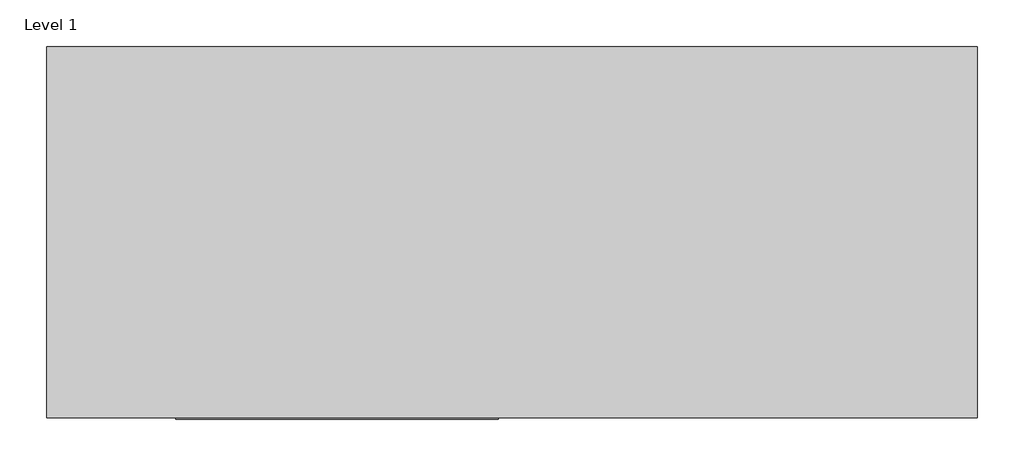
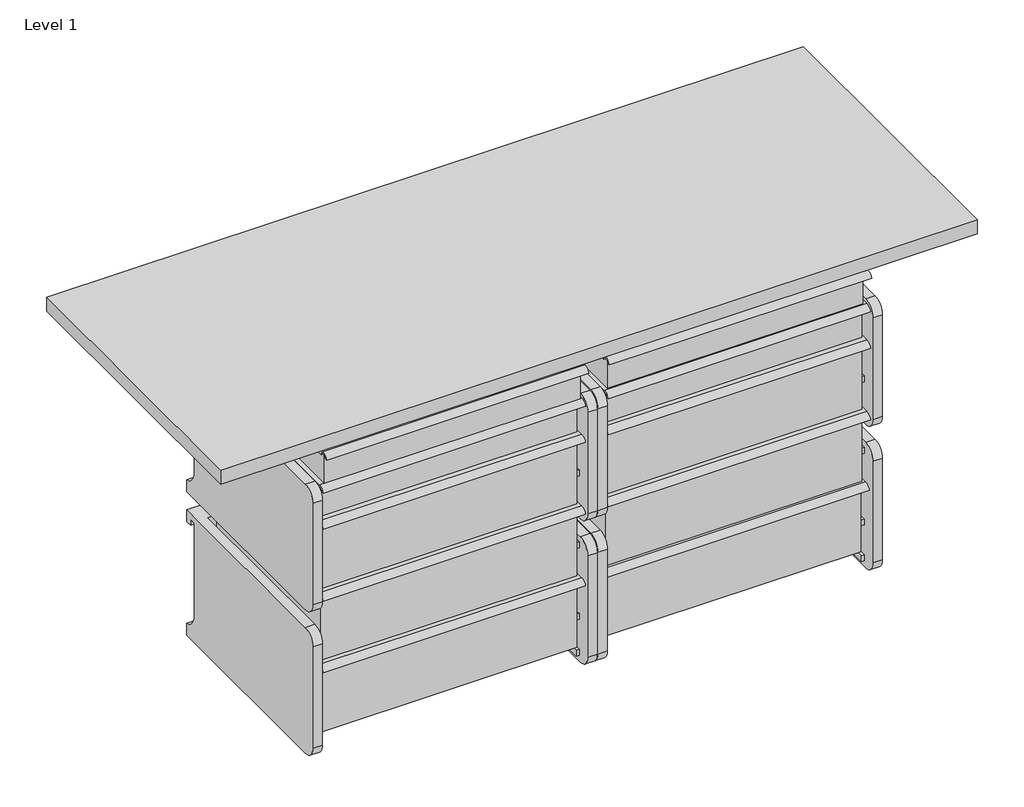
# One storey, incomplete: 15 furniture elements.
"""IFC4 building model written with IfcOpenShell, lengths in millimetres."""

from ifc_helpers import new_model, si_unit, origin, place, context, project, spatial, transform, mapped, element, save
from components import furniture_30ac351e, furniture_e68dc01e, a_3_21ecb1ea, a_3_71a075e6, b_6_d654d6fe, b_6_e7e615e0, b_6_b4610c64, lam_24d_60w_0fc88a9e

model = new_model("IFC4")

# Units and contexts
model_context = context("Model", 3, world=origin())
ifc_project = project(units=[si_unit("LENGTHUNIT", "METRE", prefix="MILLI")], contexts=[model_context])

# Site, building, storey
site = spatial("IfcSite", under=ifc_project)
building = spatial("IfcBuilding", under=site)
storey = spatial("IfcBuildingStorey", under=building, Name="Level 1", Elevation=0.0)

# Furniture
placement = place(None, origin())
furniture_shape = furniture_30ac351e(model_context)
element("IfcFurniture", 1, ObjectType="HermanMiller_CoStruc_CO205_CFrame : 10\"H x 17\"D x 22\"W", at=placement, inside=storey, context=model_context, shape_type="MappedRepresentation", body=[
    mapped(furniture_shape, transform((229.7073151, -247.0345997, 0.0), x_axis=(1.0, 0.0, 0.0), y_axis=(0.0, 1.0, 0.0), z_axis=(0.0, 0.0, 1.0))),
])
element("IfcFurniture", 2, ObjectType="HermanMiller_CoStruc_CO205_CFrame : 10\"H x 17\"D x 22\"W", at=placement, inside=storey, context=model_context, shape_type="MappedRepresentation", body=[
    mapped(furniture_shape, transform((802.7948151, -247.0345997, 0.0), x_axis=(1.0, 0.0, 0.0), y_axis=(0.0, 1.0, 0.0), z_axis=(0.0, 0.0, 1.0))),
])
furniture_2_shape = furniture_e68dc01e(model_context)
element("IfcFurniture", 3, ObjectType="HermanMiller_CoStruc_CO205_CFrame : 10\"H x 17\"D x 22\"W", at=placement, inside=storey, context=model_context, shape_type="MappedRepresentation", body=[
    mapped(furniture_2_shape, transform((229.7073151, -247.0345997, 0.0), x_axis=(1.0, 0.0, 0.0), y_axis=(0.0, 1.0, 0.0), z_axis=(0.0, 0.0, 1.0))),
])
element("IfcFurniture", 4, ObjectType="HermanMiller_CoStruc_CO205_CFrame : 10\"H x 17\"D x 22\"W", at=placement, inside=storey, context=model_context, shape_type="MappedRepresentation", body=[
    mapped(furniture_2_shape, transform((802.7948151, -247.0345997, 0.0), x_axis=(1.0, 0.0, 0.0), y_axis=(0.0, 1.0, 0.0), z_axis=(0.0, 0.0, 1.0))),
])
a_3_shape = a_3_21ecb1ea(model_context)
element("IfcFurniture", 5, ObjectType="HermanMiller_CoStruc_CO207_Drawer : A - 3", at=placement, inside=storey, context=model_context, shape_type="MappedRepresentation", body=[
    mapped(a_3_shape, transform((324.5776717, -406.4254, 0.0), x_axis=(1.0, 0.0, 0.0), y_axis=(0.0, 1.0, 0.0), z_axis=(0.0, 0.0, 1.0))),
])
element("IfcFurniture", 6, ObjectType="HermanMiller_CoStruc_CO207_Drawer : A - 3", at=placement, inside=storey, context=model_context, shape_type="MappedRepresentation", body=[
    mapped(a_3_shape, transform((897.6651717, -406.4254, 0.0), x_axis=(1.0, 0.0, 0.0), y_axis=(0.0, 1.0, 0.0), z_axis=(0.0, 0.0, 1.0))),
])
a_3_2_shape = a_3_71a075e6(model_context)
element("IfcFurniture", 7, ObjectType="HermanMiller_CoStruc_CO207_Drawer : A - 3", at=placement, inside=storey, context=model_context, shape_type="MappedRepresentation", body=[
    mapped(a_3_2_shape, transform((325.3701517, -416.74288, 0.0), x_axis=(1.0, 0.0, 0.0), y_axis=(0.0, 1.0, 0.0), z_axis=(0.0, 0.0, 1.0))),
])
element("IfcFurniture", 8, ObjectType="HermanMiller_CoStruc_CO207_Drawer : A - 3", at=placement, inside=storey, context=model_context, shape_type="MappedRepresentation", body=[
    mapped(a_3_2_shape, transform((896.0776717, -412.7754, 0.0), x_axis=(1.0, 0.0, 0.0), y_axis=(0.0, 1.0, 0.0), z_axis=(0.0, 0.0, 1.0))),
])
b_6_shape = b_6_d654d6fe(model_context)
element("IfcFurniture", 9, ObjectType="HermanMiller_CoStruc_CO207_Drawer : B - 6", at=placement, inside=storey, context=model_context, shape_type="MappedRepresentation", body=[
    mapped(b_6_shape, transform((324.5776717, -406.4254, 0.0), x_axis=(1.0, 0.0, 0.0), y_axis=(0.0, 1.0, 0.0), z_axis=(0.0, 0.0, 1.0))),
])
element("IfcFurniture", 10, ObjectType="HermanMiller_CoStruc_CO207_Drawer : B - 6", at=placement, inside=storey, context=model_context, shape_type="MappedRepresentation", body=[
    mapped(b_6_shape, transform((897.6651717, -402.45538, 0.0), x_axis=(1.0, 0.0, 0.0), y_axis=(0.0, 1.0, 0.0), z_axis=(0.0, 0.0, 1.0))),
])
b_6_2_shape = b_6_e7e615e0(model_context)
element("IfcFurniture", 11, ObjectType="HermanMiller_CoStruc_CO207_Drawer : B - 6", at=placement, inside=storey, context=model_context, shape_type="MappedRepresentation", body=[
    mapped(b_6_2_shape, transform((324.5776717, -406.4254, 0.0), x_axis=(1.0, 0.0, 0.0), y_axis=(0.0, 1.0, 0.0), z_axis=(0.0, 0.0, 1.0))),
])
element("IfcFurniture", 12, ObjectType="HermanMiller_CoStruc_CO207_Drawer : B - 6", at=placement, inside=storey, context=model_context, shape_type="MappedRepresentation", body=[
    mapped(b_6_2_shape, transform((897.6651717, -406.4254, 0.0), x_axis=(1.0, 0.0, 0.0), y_axis=(0.0, 1.0, 0.0), z_axis=(0.0, 0.0, 1.0))),
])
b_6_3_shape = b_6_b4610c64(model_context)
element("IfcFurniture", 13, ObjectType="HermanMiller_CoStruc_CO207_Drawer : B - 6", at=placement, inside=storey, context=model_context, shape_type="MappedRepresentation", body=[
    mapped(b_6_3_shape, transform((324.5776717, -406.4254, 0.0), x_axis=(1.0, 0.0, 0.0), y_axis=(0.0, 1.0, 0.0), z_axis=(0.0, 0.0, 1.0))),
])
element("IfcFurniture", 14, ObjectType="HermanMiller_CoStruc_CO207_Drawer : B - 6", at=placement, inside=storey, context=model_context, shape_type="MappedRepresentation", body=[
    mapped(b_6_3_shape, transform((897.6651717, -406.4254, 0.0), x_axis=(1.0, 0.0, 0.0), y_axis=(0.0, 1.0, 0.0), z_axis=(0.0, 0.0, 1.0))),
])
lam_24d_60w_shape = lam_24d_60w_0fc88a9e(model_context)
element("IfcFurniture", 15, ObjectType="HermanMiller_CoStruc_C4700_RectangularWorkTableSurface : Lam 24D 60W", at=placement, inside=storey, context=model_context, shape_type="MappedRepresentation", body=[
    mapped(lam_24d_60w_shape, transform((0.0, 0.0, 31.7313191), x_axis=(1.0, 0.0, 0.0), y_axis=(0.0, 1.0, 0.0), z_axis=(0.0, 0.0, 1.0))),
])

save(model, "model.ifc")
